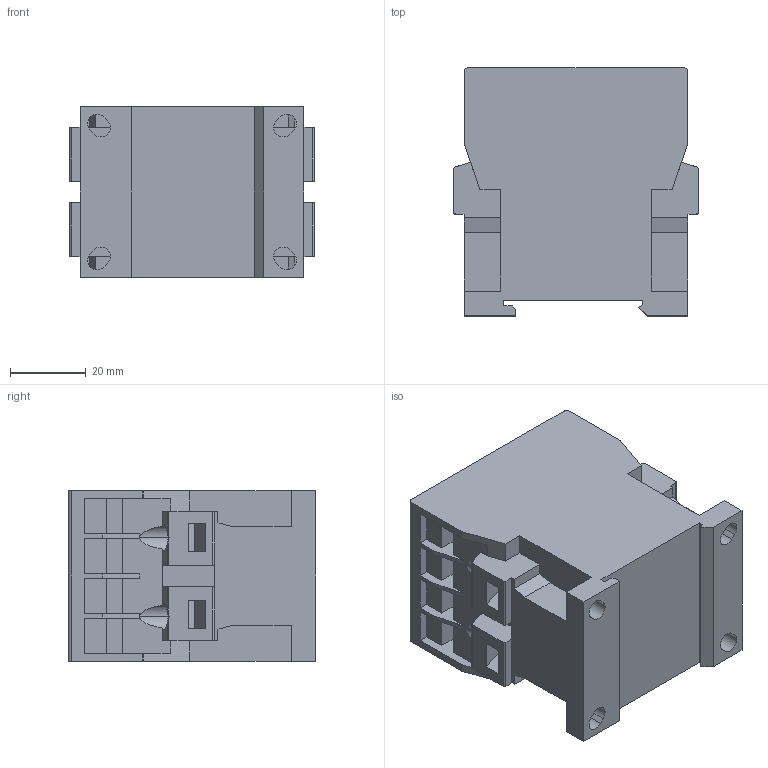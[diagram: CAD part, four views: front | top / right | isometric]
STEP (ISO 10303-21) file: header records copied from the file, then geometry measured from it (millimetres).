
FILE_DESCRIPTION(/* description */ ('Unknown'),/* implementation_level */ '2;1');
FILE_NAME(/* name */ 'N2346 - K3-07_10_14_18_22N K',/* time_stamp */ '2023-10-27T09:26:19+02:00',/* author */ ('Unknown'),/* organization */ ('Unknown'),/* preprocessor_version */ 'ST-DEVELOPER v18.102',/* originating_system */ 'Solid Edge',/* authorisation */ 'Unknown');
FILE_SCHEMA (('AUTOMOTIVE_DESIGN {1 0 10303 214 3 1 1}'));
Length unit declared in the file: millimetre
Products named in the file (1): N2346 - K3-07_10_14_18_22N K
Bounding box: 64.4 x 65.3 x 45 mm (x, y, z)
Volume: 145776.3 mm3; surface area: 27041.8 mm2
Topology: 1 solids, 1 shells, 281 faces, 769 edges, 510 vertices
Faces by surface type: plane 231, cylinder 50
Entity records: 8893 total; most frequent: CARTESIAN_POINT 1689, ORIENTED_EDGE 1538, DIRECTION 1401, EDGE_CURVE 769, LINE 637, VECTOR 637, VERTEX_POINT 510, AXIS2_PLACEMENT_3D 382
